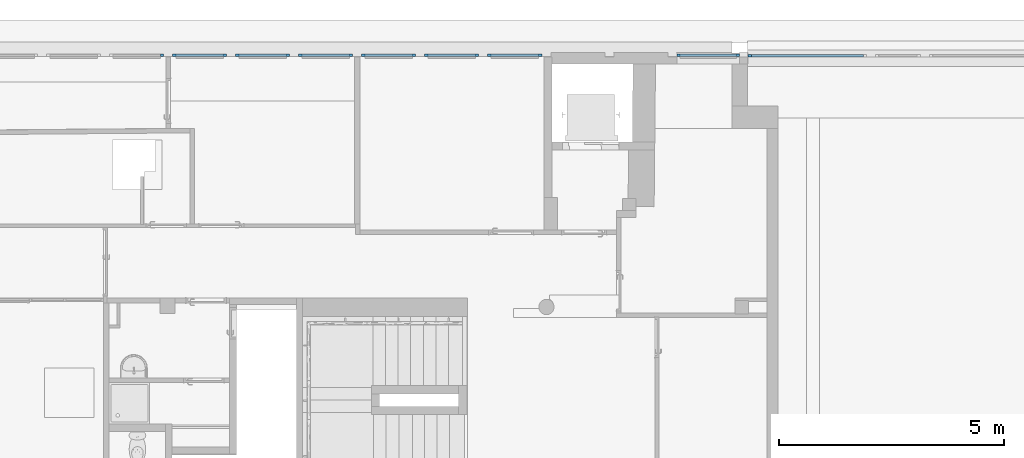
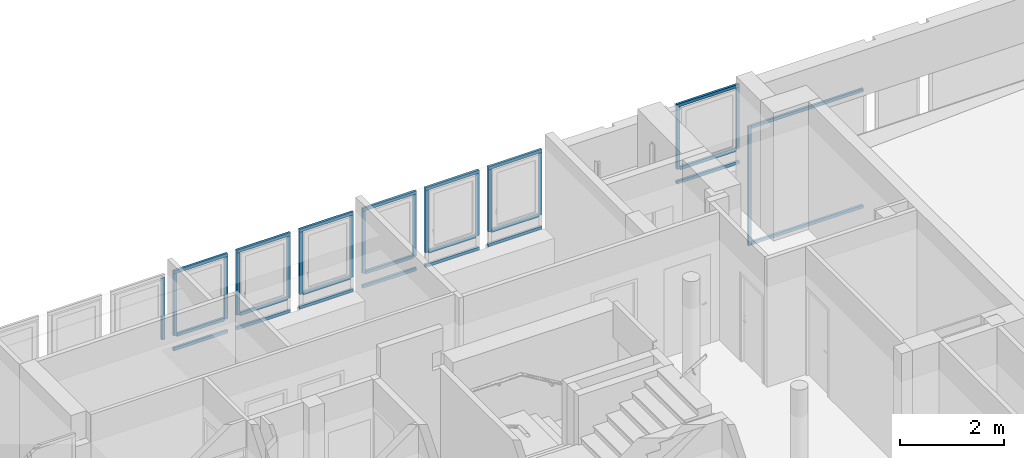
# One storey, part 12 of 97: 39 members, 9 elements without a shape of their own.
"""IFC4 building model written with IfcOpenShell, lengths in metres."""

from ifc_helpers import new_model, entity, si_unit, converted_unit, derived_unit, direction, frame, origin, place, context, subcontext, project, spatial, indexed_curve, outline, extrude, source, transform, mapped, material, type_object, type_shapes, element, aggregate, save


model = new_model("IFC4")

# Units and contexts
model_context = context("Model", 3, precision=1e-05, world=origin(), true_north=direction((6.12303176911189e-17, 1.0)))
body_context = subcontext(model_context, "Body", "Model", "MODEL_VIEW")
ifc_project = project(units=[si_unit("LENGTHUNIT", "METRE"), si_unit("AREAUNIT", "SQUARE_METRE"), si_unit("VOLUMEUNIT", "CUBIC_METRE"), converted_unit("PLANEANGLEUNIT", "DEGREE", entity("IfcRatioMeasure", 0.0174532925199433), si_unit("PLANEANGLEUNIT", "RADIAN"), dimensions=[0, 0, 0, 0, 0, 0, 0]), si_unit("MASSUNIT", "GRAM", prefix="KILO"), derived_unit("MASSDENSITYUNIT", [(si_unit("MASSUNIT", "GRAM", prefix="KILO"), 1), (si_unit("LENGTHUNIT", "METRE"), -3)]), derived_unit("MOMENTOFINERTIAUNIT", [(si_unit("LENGTHUNIT", "METRE"), 4)]), si_unit("TIMEUNIT", "SECOND"), si_unit("FREQUENCYUNIT", "HERTZ"), si_unit("THERMODYNAMICTEMPERATUREUNIT", "DEGREE_CELSIUS"), derived_unit("THERMALTRANSMITTANCEUNIT", [(si_unit("MASSUNIT", "GRAM", prefix="KILO"), 1), (si_unit("THERMODYNAMICTEMPERATUREUNIT", "KELVIN"), -1), (si_unit("TIMEUNIT", "SECOND"), -3)]), derived_unit("VOLUMETRICFLOWRATEUNIT", [(si_unit("LENGTHUNIT", "METRE"), 3), (si_unit("TIMEUNIT", "SECOND"), -1)]), si_unit("ELECTRICCURRENTUNIT", "AMPERE"), si_unit("ELECTRICVOLTAGEUNIT", "VOLT"), si_unit("POWERUNIT", "WATT"), si_unit("FORCEUNIT", "NEWTON", prefix="KILO"), si_unit("ILLUMINANCEUNIT", "LUX"), si_unit("LUMINOUSFLUXUNIT", "LUMEN"), si_unit("LUMINOUSINTENSITYUNIT", "CANDELA"), derived_unit("USERDEFINED", [(si_unit("MASSUNIT", "GRAM", prefix="KILO"), -1), (si_unit("LENGTHUNIT", "METRE"), -2), (si_unit("TIMEUNIT", "SECOND"), 3), (si_unit("LUMINOUSFLUXUNIT", "LUMEN"), 1)]), derived_unit("LINEARVELOCITYUNIT", [(si_unit("LENGTHUNIT", "METRE"), 1), (si_unit("TIMEUNIT", "SECOND"), -1)]), si_unit("PRESSUREUNIT", "PASCAL"), derived_unit("USERDEFINED", [(si_unit("LENGTHUNIT", "METRE"), -2), (si_unit("MASSUNIT", "GRAM", prefix="KILO"), 1), (si_unit("TIMEUNIT", "SECOND"), -2)]), derived_unit("LINEARFORCEUNIT", [(si_unit("MASSUNIT", "GRAM", prefix="KILO"), 1), (si_unit("LENGTHUNIT", "METRE"), 1), (si_unit("TIMEUNIT", "SECOND"), -2), (si_unit("LENGTHUNIT", "METRE"), -1)]), derived_unit("PLANARFORCEUNIT", [(si_unit("MASSUNIT", "GRAM", prefix="KILO"), 1), (si_unit("LENGTHUNIT", "METRE"), 1), (si_unit("TIMEUNIT", "SECOND"), -2), (si_unit("LENGTHUNIT", "METRE"), -2)])], contexts=[model_context])

# Site, building, storey
site_placement = place(None, origin())
site = spatial("IfcSite", under=ifc_project, at=site_placement, Name="Default", CompositionType="ELEMENT")
building_placement = place(site_placement, origin())
building = spatial("IfcBuilding", under=site, at=building_placement, Name="HOTEL CONSULAIRE BOULOGNE SUR MER", CompositionType="ELEMENT")
storey_placement = place(building_placement, frame((0.0, 0.0, 3.62152697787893)))
storey = spatial("IfcBuildingStorey", under=building, at=storey_placement, Name="Niveau 1", CompositionType="ELEMENT", Elevation=3.62152697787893)

# Curtain wall, member
curtain_wall_type = type_object("IfcCurtainWallType", Name="Mur-rideau:Simple panneau", PredefinedType="NOTDEFINED")
curtain_wall_1_placement = place(storey_placement, frame((0.0, 0.0, -3.62152697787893)))
curtain_wall_1 = element("IfcCurtainWall", 1, at=curtain_wall_1_placement, inside=storey, type_object=curtain_wall_type, Name="Mur-rideau:Simple panneau", ObjectType="Mur-rideau:Simple panneau", PredefinedType="NOTDEFINED")
ifc_material = material(Name="PVC - Blanc", Category="Plastique")
member_type_1 = type_object("IfcMemberType", Name="Meneau rectangulaire:50 x 35", PredefinedType="MULLION", material=ifc_material)
shared_shape_1 = source(origin(), body_context, "Body", "SweptSolid", [
    extrude(outline(indexed_curve([(-0.025, -0.035), (0.025, -0.035), (0.025, 0.035), (-0.025, 0.035), (-0.025, -0.035)], self_intersect=False)), frame((-0.035, -0.025, -1.20000000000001), z_axis=(0.0, 0.0, 1.0), x_axis=(0.0, -1.0, 0.0)), (0.0, 0.0, 1.0), 1.20000000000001),
])
type_shapes(member_type_1, [shared_shape_1])
member_1_placement = place(storey_placement, frame((1.47757836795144, -10.0746323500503, 2.67047302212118), z_axis=(1.0, 0.0, 0.0), x_axis=(0.0, 0.0, 1.0)))
member_1 = element("IfcMember", 2, at=member_1_placement, type_object=member_type_1, material=ifc_material, Name="Meneau rectangulaire:50 x 35", ObjectType="Meneau rectangulaire:50 x 35", PredefinedType="MULLION", context=body_context, shape_type="MappedRepresentation", body=[
    mapped(shared_shape_1, transform((0.0, 0.0, 0.0), scale=1.0)),
])

curtain_wall_2_placement = place(storey_placement, frame((0.0, 0.0, -3.62152697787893)))
curtain_wall_2 = element("IfcCurtainWall", 3, at=curtain_wall_2_placement, inside=storey, type_object=curtain_wall_type, Name="Mur-rideau:Simple panneau", ObjectType="Mur-rideau:Simple panneau", PredefinedType="NOTDEFINED")
member_2_placement = place(storey_placement, frame((2.87757836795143, -10.0746323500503, 2.67047302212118), z_axis=(1.0, 0.0, 0.0), x_axis=(0.0, 0.0, 1.0)))
member_2 = element("IfcMember", 4, at=member_2_placement, type_object=member_type_1, material=ifc_material, Name="Meneau rectangulaire:50 x 35", ObjectType="Meneau rectangulaire:50 x 35", PredefinedType="MULLION", context=body_context, shape_type="MappedRepresentation", body=[
    mapped(shared_shape_1, transform((0.0, 0.0, 0.0), scale=1.0)),
])

curtain_wall_3_placement = place(storey_placement, frame((0.0, 0.0, -3.62152697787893)))
curtain_wall_3 = element("IfcCurtainWall", 5, at=curtain_wall_3_placement, inside=storey, type_object=curtain_wall_type, Name="Mur-rideau:Simple panneau", ObjectType="Mur-rideau:Simple panneau", PredefinedType="NOTDEFINED")
member_3_placement = place(storey_placement, frame((4.27857836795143, -10.0746323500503, 2.67047302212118), z_axis=(1.0, 0.0, 0.0), x_axis=(0.0, 0.0, 1.0)))
member_3 = element("IfcMember", 6, at=member_3_placement, type_object=member_type_1, material=ifc_material, Name="Meneau rectangulaire:50 x 35", ObjectType="Meneau rectangulaire:50 x 35", PredefinedType="MULLION", context=body_context, shape_type="MappedRepresentation", body=[
    mapped(shared_shape_1, transform((0.0, 0.0, 0.0), scale=1.0)),
])

curtain_wall_4_placement = place(storey_placement, frame((0.0, 0.0, -3.62152697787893)))
curtain_wall_4 = element("IfcCurtainWall", 7, at=curtain_wall_4_placement, inside=storey, type_object=curtain_wall_type, Name="Mur-rideau:Simple panneau", ObjectType="Mur-rideau:Simple panneau", PredefinedType="NOTDEFINED")
member_4_placement = place(storey_placement, frame((5.67757836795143, -10.0746323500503, 2.67047302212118), z_axis=(1.0, 0.0, 0.0), x_axis=(0.0, 0.0, 1.0)))
member_4 = element("IfcMember", 8, at=member_4_placement, type_object=member_type_1, material=ifc_material, Name="Meneau rectangulaire:50 x 35", ObjectType="Meneau rectangulaire:50 x 35", PredefinedType="MULLION", context=body_context, shape_type="MappedRepresentation", body=[
    mapped(shared_shape_1, transform((0.0, 0.0, 0.0), scale=1.0)),
])

curtain_wall_5_placement = place(storey_placement, frame((0.0, 0.0, -3.62152697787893)))
curtain_wall_5 = element("IfcCurtainWall", 9, at=curtain_wall_5_placement, inside=storey, type_object=curtain_wall_type, Name="Mur-rideau:Simple panneau", ObjectType="Mur-rideau:Simple panneau", PredefinedType="NOTDEFINED")
member_5_placement = place(storey_placement, frame((7.07757836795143, -10.0746323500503, 2.67047302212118), z_axis=(1.0, 0.0, 0.0), x_axis=(0.0, 0.0, 1.0)))
member_5 = element("IfcMember", 10, at=member_5_placement, type_object=member_type_1, material=ifc_material, Name="Meneau rectangulaire:50 x 35", ObjectType="Meneau rectangulaire:50 x 35", PredefinedType="MULLION", context=body_context, shape_type="MappedRepresentation", body=[
    mapped(shared_shape_1, transform((0.0, 0.0, 0.0), scale=1.0)),
])

# Member
member_type_2 = type_object("IfcMemberType", Name="Meneau rectangulaire:50 x 35", PredefinedType="MULLION", material=ifc_material)
shared_shape_2 = source(origin(), body_context, "Body", "SweptSolid", [
    extrude(outline(indexed_curve([(-0.025, -0.035), (0.025, -0.035), (0.025, 0.035), (-0.025, 0.035), (-0.025, -0.035)], self_intersect=False)), frame((-0.035, -0.025, -1.20000000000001), z_axis=(0.0, 0.0, 1.0), x_axis=(0.0, -1.0, 0.0)), (0.0, 0.0, 1.0), 1.20000000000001),
])
type_shapes(member_type_2, [shared_shape_2])
member_6_placement = place(storey_placement, frame((0.277578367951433, -10.0746323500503, 0.791612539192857), z_axis=(-1.0, 0.0, 0.0), x_axis=(0.0, 0.0, -1.0)))
member_6 = element("IfcMember", 11, at=member_6_placement, type_object=member_type_2, material=ifc_material, Name="Meneau rectangulaire:50 x 35", ObjectType="Meneau rectangulaire:50 x 35", PredefinedType="MULLION", context=body_context, shape_type="MappedRepresentation", body=[
    mapped(shared_shape_2, transform((0.0, 0.0, 0.0), scale=1.0)),
])

member_7_placement = place(storey_placement, frame((1.67757836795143, -10.0746323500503, 0.791612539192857), z_axis=(-1.0, 0.0, 0.0), x_axis=(0.0, 0.0, -1.0)))
member_7 = element("IfcMember", 12, at=member_7_placement, type_object=member_type_2, material=ifc_material, Name="Meneau rectangulaire:50 x 35", ObjectType="Meneau rectangulaire:50 x 35", PredefinedType="MULLION", context=body_context, shape_type="MappedRepresentation", body=[
    mapped(shared_shape_2, transform((0.0, 0.0, 0.0), scale=1.0)),
])

member_8_placement = place(storey_placement, frame((3.07857836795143, -10.0746323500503, 0.791612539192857), z_axis=(-1.0, 0.0, 0.0), x_axis=(0.0, 0.0, -1.0)))
member_8 = element("IfcMember", 13, at=member_8_placement, type_object=member_type_2, material=ifc_material, Name="Meneau rectangulaire:50 x 35", ObjectType="Meneau rectangulaire:50 x 35", PredefinedType="MULLION", context=body_context, shape_type="MappedRepresentation", body=[
    mapped(shared_shape_2, transform((0.0, 0.0, 0.0), scale=1.0)),
])

member_9_placement = place(storey_placement, frame((4.47757836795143, -10.0746323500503, 0.791612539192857), z_axis=(-1.0, 0.0, 0.0), x_axis=(0.0, 0.0, -1.0)))
member_9 = element("IfcMember", 14, at=member_9_placement, type_object=member_type_2, material=ifc_material, Name="Meneau rectangulaire:50 x 35", ObjectType="Meneau rectangulaire:50 x 35", PredefinedType="MULLION", context=body_context, shape_type="MappedRepresentation", body=[
    mapped(shared_shape_2, transform((0.0, 0.0, 0.0), scale=1.0)),
])

member_10_placement = place(storey_placement, frame((5.87757836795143, -10.0746323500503, 0.791612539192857), z_axis=(-1.0, 0.0, 0.0), x_axis=(0.0, 0.0, -1.0)))
member_10 = element("IfcMember", 15, at=member_10_placement, type_object=member_type_2, material=ifc_material, Name="Meneau rectangulaire:50 x 35", ObjectType="Meneau rectangulaire:50 x 35", PredefinedType="MULLION", context=body_context, shape_type="MappedRepresentation", body=[
    mapped(shared_shape_2, transform((0.0, 0.0, 0.0), scale=1.0)),
])

member_type_3 = type_object("IfcMemberType", Name="Meneau rectangulaire:50 x 35", PredefinedType="MULLION", material=ifc_material)
shared_shape_3 = source(origin(), body_context, "Body", "SweptSolid", [
    extrude(outline(indexed_curve([(-0.025, -0.035), (0.025, -0.035), (0.025, 0.035), (-0.025, 0.035), (-0.025, -0.035)], self_intersect=False)), frame((0.0, -0.025, -1.06000000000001), z_axis=(0.0, 0.0, 1.0), x_axis=(0.0, -1.0, 0.0)), (0.0, 0.0, 1.0), 1.06000000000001),
])
type_shapes(member_type_3, [shared_shape_3])
member_11_placement = place(storey_placement, frame((1.40757836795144, -10.0746323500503, 1.13961253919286), z_axis=(1.0, 0.0, 0.0), x_axis=(0.0, 0.0, 1.0)))
member_11 = element("IfcMember", 16, at=member_11_placement, type_object=member_type_3, material=ifc_material, Name="Meneau rectangulaire:50 x 35", ObjectType="Meneau rectangulaire:50 x 35", PredefinedType="MULLION", context=body_context, shape_type="MappedRepresentation", body=[
    mapped(shared_shape_3, transform((0.0, 0.0, 0.0), scale=1.0)),
])

member_12_placement = place(storey_placement, frame((2.80757836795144, -10.0746323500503, 1.13961253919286), z_axis=(1.0, 0.0, 0.0), x_axis=(0.0, 0.0, 1.0)))
member_12 = element("IfcMember", 17, at=member_12_placement, type_object=member_type_3, material=ifc_material, Name="Meneau rectangulaire:50 x 35", ObjectType="Meneau rectangulaire:50 x 35", PredefinedType="MULLION", context=body_context, shape_type="MappedRepresentation", body=[
    mapped(shared_shape_3, transform((0.0, 0.0, 0.0), scale=1.0)),
])

member_13_placement = place(storey_placement, frame((4.20857836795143, -10.0746323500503, 1.13961253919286), z_axis=(1.0, 0.0, 0.0), x_axis=(0.0, 0.0, 1.0)))
member_13 = element("IfcMember", 18, at=member_13_placement, type_object=member_type_3, material=ifc_material, Name="Meneau rectangulaire:50 x 35", ObjectType="Meneau rectangulaire:50 x 35", PredefinedType="MULLION", context=body_context, shape_type="MappedRepresentation", body=[
    mapped(shared_shape_3, transform((0.0, 0.0, 0.0), scale=1.0)),
])

member_14_placement = place(storey_placement, frame((5.60757836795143, -10.0746323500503, 1.13961253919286), z_axis=(1.0, 0.0, 0.0), x_axis=(0.0, 0.0, 1.0)))
member_14 = element("IfcMember", 19, at=member_14_placement, type_object=member_type_3, material=ifc_material, Name="Meneau rectangulaire:50 x 35", ObjectType="Meneau rectangulaire:50 x 35", PredefinedType="MULLION", context=body_context, shape_type="MappedRepresentation", body=[
    mapped(shared_shape_3, transform((0.0, 0.0, 0.0), scale=1.0)),
])

member_15_placement = place(storey_placement, frame((7.00757836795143, -10.0746323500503, 1.13961253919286), z_axis=(1.0, 0.0, 0.0), x_axis=(0.0, 0.0, 1.0)))
member_15 = element("IfcMember", 20, at=member_15_placement, type_object=member_type_3, material=ifc_material, Name="Meneau rectangulaire:50 x 35", ObjectType="Meneau rectangulaire:50 x 35", PredefinedType="MULLION", context=body_context, shape_type="MappedRepresentation", body=[
    mapped(shared_shape_3, transform((0.0, 0.0, 0.0), scale=1.0)),
])

# Curtain wall, member
curtain_wall_6_placement = place(storey_placement, frame((0.0, 0.0, -3.62152697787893)))
curtain_wall_6 = element("IfcCurtainWall", 21, at=curtain_wall_6_placement, inside=storey, type_object=curtain_wall_type, Name="Mur-rideau:Simple panneau", ObjectType="Mur-rideau:Simple panneau", PredefinedType="NOTDEFINED")
member_type_4 = type_object("IfcMemberType", Name="Meneau rectangulaire:50 x 35", PredefinedType="MULLION", material=ifc_material)
shared_shape_4 = source(origin(), body_context, "Body", "SweptSolid", [
    extrude(outline(indexed_curve([(-0.025, -0.035), (0.025, -0.035), (0.025, 0.035), (-0.025, 0.035), (-0.025, -0.035)], self_intersect=False)), frame((-0.035, -0.025, -1.46086048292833), z_axis=(0.0, 0.0, 1.0), x_axis=(0.0, -1.0, 0.0)), (0.0, 0.0, 1.0), 1.46086048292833),
])
type_shapes(member_type_4, [shared_shape_4])
member_16_placement = place(storey_placement, frame((-1.31977317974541, -10.0746323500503, 1.13961253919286), z_axis=(0.0, 0.0, -1.0), x_axis=(1.0, 0.0, 0.0)))
member_16 = element("IfcMember", 22, at=member_16_placement, type_object=member_type_4, material=ifc_material, Name="Meneau rectangulaire:50 x 35", ObjectType="Meneau rectangulaire:50 x 35", PredefinedType="MULLION", context=body_context, shape_type="MappedRepresentation", body=[
    mapped(shared_shape_4, transform((0.0, 0.0, 0.0), scale=1.0)),
])
aggregate(curtain_wall_6, [member_16])

curtain_wall_7_placement = place(storey_placement, frame((0.0, 0.0, -3.62152697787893)))
curtain_wall_7 = element("IfcCurtainWall", 23, at=curtain_wall_7_placement, inside=storey, type_object=curtain_wall_type, Name="Mur-rideau:Simple panneau", ObjectType="Mur-rideau:Simple panneau", PredefinedType="NOTDEFINED")
member_17_placement = place(storey_placement, frame((0.0775783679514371, -10.0746323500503, 1.13961253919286), z_axis=(0.0, 0.0, -1.0), x_axis=(1.0, 0.0, 0.0)))
member_17 = element("IfcMember", 24, at=member_17_placement, type_object=member_type_4, material=ifc_material, Name="Meneau rectangulaire:50 x 35", ObjectType="Meneau rectangulaire:50 x 35", PredefinedType="MULLION", context=body_context, shape_type="MappedRepresentation", body=[
    mapped(shared_shape_4, transform((0.0, 0.0, 0.0), scale=1.0)),
])

# Member
member_18_placement = place(storey_placement, frame((1.47757836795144, -10.0746323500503, 1.13961253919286), z_axis=(0.0, 0.0, -1.0), x_axis=(1.0, 0.0, 0.0)))
member_18 = element("IfcMember", 25, at=member_18_placement, type_object=member_type_4, material=ifc_material, Name="Meneau rectangulaire:50 x 35", ObjectType="Meneau rectangulaire:50 x 35", PredefinedType="MULLION", context=body_context, shape_type="MappedRepresentation", body=[
    mapped(shared_shape_4, transform((0.0, 0.0, 0.0), scale=1.0)),
])

member_19_placement = place(storey_placement, frame((2.87757836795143, -10.0746323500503, 1.13961253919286), z_axis=(0.0, 0.0, -1.0), x_axis=(1.0, 0.0, 0.0)))
member_19 = element("IfcMember", 26, at=member_19_placement, type_object=member_type_4, material=ifc_material, Name="Meneau rectangulaire:50 x 35", ObjectType="Meneau rectangulaire:50 x 35", PredefinedType="MULLION", context=body_context, shape_type="MappedRepresentation", body=[
    mapped(shared_shape_4, transform((0.0, 0.0, 0.0), scale=1.0)),
])

member_20_placement = place(storey_placement, frame((4.27857836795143, -10.0746323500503, 1.13961253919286), z_axis=(0.0, 0.0, -1.0), x_axis=(1.0, 0.0, 0.0)))
member_20 = element("IfcMember", 27, at=member_20_placement, type_object=member_type_4, material=ifc_material, Name="Meneau rectangulaire:50 x 35", ObjectType="Meneau rectangulaire:50 x 35", PredefinedType="MULLION", context=body_context, shape_type="MappedRepresentation", body=[
    mapped(shared_shape_4, transform((0.0, 0.0, 0.0), scale=1.0)),
])

member_21_placement = place(storey_placement, frame((5.67757836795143, -10.0746323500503, 1.13961253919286), z_axis=(0.0, 0.0, -1.0), x_axis=(1.0, 0.0, 0.0)))
member_21 = element("IfcMember", 28, at=member_21_placement, type_object=member_type_4, material=ifc_material, Name="Meneau rectangulaire:50 x 35", ObjectType="Meneau rectangulaire:50 x 35", PredefinedType="MULLION", context=body_context, shape_type="MappedRepresentation", body=[
    mapped(shared_shape_4, transform((0.0, 0.0, 0.0), scale=1.0)),
])

member_22_placement = place(storey_placement, frame((7.07757836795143, -10.0746323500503, 1.13961253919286), z_axis=(0.0, 0.0, -1.0), x_axis=(1.0, 0.0, 0.0)))
member_22 = element("IfcMember", 29, at=member_22_placement, type_object=member_type_4, material=ifc_material, Name="Meneau rectangulaire:50 x 35", ObjectType="Meneau rectangulaire:50 x 35", PredefinedType="MULLION", context=body_context, shape_type="MappedRepresentation", body=[
    mapped(shared_shape_4, transform((0.0, 0.0, 0.0), scale=1.0)),
])

# Curtain wall, member
curtain_wall_8_placement = place(storey_placement, frame((0.0, 0.0, -3.62152697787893)))
curtain_wall_8 = element("IfcCurtainWall", 30, at=curtain_wall_8_placement, inside=storey, type_object=curtain_wall_type, Name="Mur-rideau:Simple panneau", ObjectType="Mur-rideau:Simple panneau", PredefinedType="NOTDEFINED")
member_23_placement = place(storey_placement, frame((11.4734778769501, -10.0746323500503, 1.13961253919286), z_axis=(0.0, 0.0, -1.0), x_axis=(1.0, 0.0, 0.0)))
member_23 = element("IfcMember", 31, at=member_23_placement, type_object=member_type_4, material=ifc_material, Name="Meneau rectangulaire:50 x 35", ObjectType="Meneau rectangulaire:50 x 35", PredefinedType="MULLION", context=body_context, shape_type="MappedRepresentation", body=[
    mapped(shared_shape_4, transform((0.0, 0.0, 0.0), scale=1.0)),
])

# Member
member_type_5 = type_object("IfcMemberType", Name="Meneau rectangulaire:50 x 35", PredefinedType="MULLION", material=ifc_material)
shared_shape_5 = source(origin(), body_context, "Body", "SweptSolid", [
    extrude(outline(indexed_curve([(-0.025, -0.035), (0.025, -0.035), (0.025, 0.035), (-0.025, 0.035), (-0.025, -0.035)], self_intersect=False)), frame((-0.035, -0.025, -1.46086048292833), z_axis=(0.0, 0.0, 1.0), x_axis=(0.0, -1.0, 0.0)), (0.0, 0.0, 1.0), 1.46086048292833),
])
type_shapes(member_type_5, [shared_shape_5])
member_24_placement = place(storey_placement, frame((-1.11977317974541, -10.0746323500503, 2.60047302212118), z_axis=(0.0, 0.0, 1.0), x_axis=(-1.0, 0.0, 0.0)))
member_24 = element("IfcMember", 32, at=member_24_placement, type_object=member_type_5, material=ifc_material, Name="Meneau rectangulaire:50 x 35", ObjectType="Meneau rectangulaire:50 x 35", PredefinedType="MULLION", context=body_context, shape_type="MappedRepresentation", body=[
    mapped(shared_shape_5, transform((0.0, 0.0, 0.0), scale=1.0)),
])

member_25_placement = place(storey_placement, frame((0.277578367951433, -10.0746323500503, 2.60047302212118), z_axis=(0.0, 0.0, 1.0), x_axis=(-1.0, 0.0, 0.0)))
member_25 = element("IfcMember", 33, at=member_25_placement, type_object=member_type_5, material=ifc_material, Name="Meneau rectangulaire:50 x 35", ObjectType="Meneau rectangulaire:50 x 35", PredefinedType="MULLION", context=body_context, shape_type="MappedRepresentation", body=[
    mapped(shared_shape_5, transform((0.0, 0.0, 0.0), scale=1.0)),
])

aggregate(curtain_wall_1, [member_11, member_25, member_1, member_6, member_18])

member_26_placement = place(storey_placement, frame((1.67757836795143, -10.0746323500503, 2.60047302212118), z_axis=(0.0, 0.0, 1.0), x_axis=(-1.0, 0.0, 0.0)))
member_26 = element("IfcMember", 34, at=member_26_placement, type_object=member_type_5, material=ifc_material, Name="Meneau rectangulaire:50 x 35", ObjectType="Meneau rectangulaire:50 x 35", PredefinedType="MULLION", context=body_context, shape_type="MappedRepresentation", body=[
    mapped(shared_shape_5, transform((0.0, 0.0, 0.0), scale=1.0)),
])

aggregate(curtain_wall_2, [member_12, member_26, member_2, member_7, member_19])

member_27_placement = place(storey_placement, frame((3.07857836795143, -10.0746323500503, 2.60047302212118), z_axis=(0.0, 0.0, 1.0), x_axis=(-1.0, 0.0, 0.0)))
member_27 = element("IfcMember", 35, at=member_27_placement, type_object=member_type_5, material=ifc_material, Name="Meneau rectangulaire:50 x 35", ObjectType="Meneau rectangulaire:50 x 35", PredefinedType="MULLION", context=body_context, shape_type="MappedRepresentation", body=[
    mapped(shared_shape_5, transform((0.0, 0.0, 0.0), scale=1.0)),
])

aggregate(curtain_wall_3, [member_13, member_27, member_3, member_8, member_20])

member_28_placement = place(storey_placement, frame((4.47757836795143, -10.0746323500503, 2.60047302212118), z_axis=(0.0, 0.0, 1.0), x_axis=(-1.0, 0.0, 0.0)))
member_28 = element("IfcMember", 36, at=member_28_placement, type_object=member_type_5, material=ifc_material, Name="Meneau rectangulaire:50 x 35", ObjectType="Meneau rectangulaire:50 x 35", PredefinedType="MULLION", context=body_context, shape_type="MappedRepresentation", body=[
    mapped(shared_shape_5, transform((0.0, 0.0, 0.0), scale=1.0)),
])

aggregate(curtain_wall_4, [member_14, member_28, member_4, member_9, member_21])

member_29_placement = place(storey_placement, frame((5.87757836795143, -10.0746323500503, 2.60047302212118), z_axis=(0.0, 0.0, 1.0), x_axis=(-1.0, 0.0, 0.0)))
member_29 = element("IfcMember", 37, at=member_29_placement, type_object=member_type_5, material=ifc_material, Name="Meneau rectangulaire:50 x 35", ObjectType="Meneau rectangulaire:50 x 35", PredefinedType="MULLION", context=body_context, shape_type="MappedRepresentation", body=[
    mapped(shared_shape_5, transform((0.0, 0.0, 0.0), scale=1.0)),
])

aggregate(curtain_wall_5, [member_15, member_29, member_5, member_10, member_22])

member_30_placement = place(storey_placement, frame((10.0775783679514, -10.0746323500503, 2.60047302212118), z_axis=(0.0, 0.0, 1.0), x_axis=(-1.0, 0.0, 0.0)))
member_30 = element("IfcMember", 38, at=member_30_placement, type_object=member_type_5, material=ifc_material, Name="Meneau rectangulaire:50 x 35", ObjectType="Meneau rectangulaire:50 x 35", PredefinedType="MULLION", context=body_context, shape_type="MappedRepresentation", body=[
    mapped(shared_shape_5, transform((0.0, 0.0, 0.0), scale=1.0)),
])

member_type_6 = type_object("IfcMemberType", Name="Meneau rectangulaire:50 x 35", PredefinedType="MULLION", material=ifc_material)
shared_shape_6 = source(origin(), body_context, "Body", "SweptSolid", [
    extrude(outline(indexed_curve([(-0.025, -0.035), (0.025, -0.035), (0.025, 0.035), (-0.025, 0.035), (-0.025, -0.035)], self_intersect=False)), frame((0.0, -0.025, -1.05735154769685), z_axis=(0.0, 0.0, 1.0), x_axis=(0.0, -1.0, 0.0)), (0.0, 0.0, 1.0), 1.05735154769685),
])
type_shapes(member_type_6, [shared_shape_6])
member_31_placement = place(storey_placement, frame((0.0075783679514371, -10.0746323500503, 1.13961253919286), z_axis=(1.0, 0.0, 0.0), x_axis=(0.0, 0.0, 1.0)))
member_31 = element("IfcMember", 39, at=member_31_placement, type_object=member_type_6, material=ifc_material, Name="Meneau rectangulaire:50 x 35", ObjectType="Meneau rectangulaire:50 x 35", PredefinedType="MULLION", context=body_context, shape_type="MappedRepresentation", body=[
    mapped(shared_shape_6, transform((0.0, 0.0, 0.0), scale=1.0)),
])

member_type_7 = type_object("IfcMemberType", Name="Meneau rectangulaire:50 x 35", PredefinedType="MULLION", material=ifc_material)
shared_shape_7 = source(origin(), body_context, "Body", "SweptSolid", [
    extrude(outline(indexed_curve([(-0.025, -0.035), (0.025, -0.035), (0.025, 0.035), (-0.025, 0.035), (-0.025, -0.035)], self_intersect=False)), frame((-0.035, -0.025, -1.19735154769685), z_axis=(0.0, 0.0, 1.0), x_axis=(0.0, -1.0, 0.0)), (0.0, 0.0, 1.0), 1.19735154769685),
])
type_shapes(member_type_7, [shared_shape_7])
member_32_placement = place(storey_placement, frame((0.0775783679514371, -10.0746323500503, 2.67047302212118), z_axis=(1.0, 0.0, 0.0), x_axis=(0.0, 0.0, 1.0)))
member_32 = element("IfcMember", 40, at=member_32_placement, type_object=member_type_7, material=ifc_material, Name="Meneau rectangulaire:50 x 35", ObjectType="Meneau rectangulaire:50 x 35", PredefinedType="MULLION", context=body_context, shape_type="MappedRepresentation", body=[
    mapped(shared_shape_7, transform((0.0, 0.0, 0.0), scale=1.0)),
])

member_type_8 = type_object("IfcMemberType", Name="Meneau rectangulaire:50 x 35", PredefinedType="MULLION", material=ifc_material)
shared_shape_8 = source(origin(), body_context, "Body", "SweptSolid", [
    extrude(outline(indexed_curve([(-0.025, -0.035), (0.025, -0.035), (0.025, 0.035), (-0.025, 0.035), (-0.025, -0.035)], self_intersect=False)), frame((-0.035, -0.025, -1.19735154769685), z_axis=(0.0, 0.0, 1.0), x_axis=(0.0, -1.0, 0.0)), (0.0, 0.0, 1.0), 1.19735154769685),
])
type_shapes(member_type_8, [shared_shape_8])
member_33_placement = place(storey_placement, frame((-1.11977317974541, -10.0746323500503, 0.791612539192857), z_axis=(-1.0, 0.0, 0.0), x_axis=(0.0, 0.0, -1.0)))
member_33 = element("IfcMember", 41, at=member_33_placement, type_object=member_type_8, material=ifc_material, Name="Meneau rectangulaire:50 x 35", ObjectType="Meneau rectangulaire:50 x 35", PredefinedType="MULLION", context=body_context, shape_type="MappedRepresentation", body=[
    mapped(shared_shape_8, transform((0.0, 0.0, 0.0), scale=1.0)),
])

aggregate(curtain_wall_7, [member_31, member_24, member_32, member_33, member_17])

member_type_9 = type_object("IfcMemberType", Name="Meneau rectangulaire:50 x 35", PredefinedType="MULLION", material=ifc_material)
shared_shape_9 = source(origin(), body_context, "Body", "SweptSolid", [
    extrude(outline(indexed_curve([(-0.025, -0.035), (0.025, -0.035), (0.025, 0.035), (-0.025, 0.035), (-0.025, -0.035)], self_intersect=False)), frame((0.0, -0.025, -1.25589950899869), z_axis=(0.0, 0.0, 1.0), x_axis=(0.0, -1.0, 0.0)), (0.0, 0.0, 1.0), 1.25589950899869),
])
type_shapes(member_type_9, [shared_shape_9])
member_34_placement = place(storey_placement, frame((11.4034778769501, -10.0746323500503, 1.13961253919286), z_axis=(1.0, 0.0, 0.0), x_axis=(0.0, 0.0, 1.0)))
member_34 = element("IfcMember", 42, at=member_34_placement, type_object=member_type_9, material=ifc_material, Name="Meneau rectangulaire:50 x 35", ObjectType="Meneau rectangulaire:50 x 35", PredefinedType="MULLION", context=body_context, shape_type="MappedRepresentation", body=[
    mapped(shared_shape_9, transform((0.0, 0.0, 0.0), scale=1.0)),
])

member_type_10 = type_object("IfcMemberType", Name="Meneau rectangulaire:50 x 35", PredefinedType="MULLION", material=ifc_material)
shared_shape_10 = source(origin(), body_context, "Body", "SweptSolid", [
    extrude(outline(indexed_curve([(-0.025, -0.035), (0.025, -0.035), (0.025, 0.035), (-0.025, 0.035), (-0.025, -0.035)], self_intersect=False)), frame((-0.035, -0.025, -1.39589950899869), z_axis=(0.0, 0.0, 1.0), x_axis=(0.0, -1.0, 0.0)), (0.0, 0.0, 1.0), 1.39589950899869),
])
type_shapes(member_type_10, [shared_shape_10])
member_35_placement = place(storey_placement, frame((11.4734778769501, -10.0746323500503, 2.67047302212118), z_axis=(1.0, 0.0, 0.0), x_axis=(0.0, 0.0, 1.0)))
member_35 = element("IfcMember", 43, at=member_35_placement, type_object=member_type_10, material=ifc_material, Name="Meneau rectangulaire:50 x 35", ObjectType="Meneau rectangulaire:50 x 35", PredefinedType="MULLION", context=body_context, shape_type="MappedRepresentation", body=[
    mapped(shared_shape_10, transform((0.0, 0.0, 0.0), scale=1.0)),
])

member_type_11 = type_object("IfcMemberType", Name="Meneau rectangulaire:50 x 35", PredefinedType="MULLION", material=ifc_material)
shared_shape_11 = source(origin(), body_context, "Body", "SweptSolid", [
    extrude(outline(indexed_curve([(-0.025, -0.035), (0.025, -0.035), (0.025, 0.035), (-0.025, 0.035), (-0.025, -0.035)], self_intersect=False)), frame((-0.035, -0.025, -1.39589950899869), z_axis=(0.0, 0.0, 1.0), x_axis=(0.0, -1.0, 0.0)), (0.0, 0.0, 1.0), 1.39589950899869),
])
type_shapes(member_type_11, [shared_shape_11])
member_36_placement = place(storey_placement, frame((10.0775783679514, -10.0746323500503, 0.791612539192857), z_axis=(-1.0, 0.0, 0.0), x_axis=(0.0, 0.0, -1.0)))
member_36 = element("IfcMember", 44, at=member_36_placement, type_object=member_type_11, material=ifc_material, Name="Meneau rectangulaire:50 x 35", ObjectType="Meneau rectangulaire:50 x 35", PredefinedType="MULLION", context=body_context, shape_type="MappedRepresentation", body=[
    mapped(shared_shape_11, transform((0.0, 0.0, 0.0), scale=1.0)),
])

aggregate(curtain_wall_8, [member_34, member_30, member_35, member_36, member_23])

# Curtain wall, members
curtain_wall_9_placement = place(storey_placement, frame((0.0, 0.0, -3.62152697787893)))
curtain_wall_9 = element("IfcCurtainWall", 45, at=curtain_wall_9_placement, inside=storey, type_object=curtain_wall_type, Name="Mur-rideau:Simple panneau", ObjectType="Mur-rideau:Simple panneau", PredefinedType="NOTDEFINED")
member_type_12 = type_object("IfcMemberType", Name="Meneau rectangulaire:50 x 35", PredefinedType="MULLION", material=ifc_material)
shared_shape_12 = source(origin(), body_context, "Body", "SweptSolid", [
    extrude(outline(indexed_curve([(-0.025, -0.035), (0.025, -0.035), (0.025, 0.035), (-0.025, 0.035), (-0.025, -0.035)], self_intersect=False)), frame((-0.035, -0.025, -2.80936343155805), z_axis=(0.0, 0.0, 1.0), x_axis=(0.0, -1.0, 0.0)), (0.0, 0.0, 1.0), 2.80936343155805),
])
type_shapes(member_type_12, [shared_shape_12])
member_37_placement = place(storey_placement, frame((11.6611975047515, -10.0330173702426, -1.21), z_axis=(0.0, 0.0, -1.0), x_axis=(-1.0, 0.0, 0.0)))
member_37 = element("IfcMember", 46, at=member_37_placement, type_object=member_type_12, material=ifc_material, Name="Meneau rectangulaire:50 x 35", ObjectType="Meneau rectangulaire:50 x 35", PredefinedType="MULLION", context=body_context, shape_type="MappedRepresentation", body=[
    mapped(shared_shape_12, transform((0.0, 0.0, 0.0), scale=1.0)),
])
member_type_13 = type_object("IfcMemberType", Name="Meneau rectangulaire:50 x 35", PredefinedType="MULLION", material=ifc_material)
shared_shape_13 = source(origin(), body_context, "Body", "SweptSolid", [
    extrude(outline(indexed_curve([(-0.025, -0.035), (0.025, -0.035), (0.025, 0.035), (-0.025, 0.035), (-0.025, -0.035)], self_intersect=False)), frame((-0.035, -0.025, -2.49183915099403), z_axis=(0.0, 0.0, 1.0), x_axis=(0.0, -1.0, 0.0)), (0.0, 0.0, 1.0), 2.49183915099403),
])
type_shapes(member_type_13, [shared_shape_13])
member_38_placement = place(storey_placement, frame((11.7311975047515, -10.0330173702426, 1.59936343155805), z_axis=(-1.0, 0.0, 0.0), x_axis=(0.0, 0.0, 1.0)))
member_38 = element("IfcMember", 47, at=member_38_placement, type_object=member_type_13, material=ifc_material, Name="Meneau rectangulaire:50 x 35", ObjectType="Meneau rectangulaire:50 x 35", PredefinedType="MULLION", context=body_context, shape_type="MappedRepresentation", body=[
    mapped(shared_shape_13, transform((0.0, 0.0, 0.0), scale=1.0)),
])
member_type_14 = type_object("IfcMemberType", Name="Meneau rectangulaire:50 x 35", PredefinedType="MULLION", material=ifc_material)
shared_shape_14 = source(origin(), body_context, "Body", "SweptSolid", [
    extrude(outline(indexed_curve([(-0.025, -0.035), (0.025, -0.035), (0.025, 0.035), (-0.025, 0.035), (-0.025, -0.035)], self_intersect=False)), frame((-0.035, -0.025, -2.49183915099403), z_axis=(0.0, 0.0, 1.0), x_axis=(0.0, -1.0, 0.0)), (0.0, 0.0, 1.0), 2.49183915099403),
])
type_shapes(member_type_14, [shared_shape_14])
member_39_placement = place(storey_placement, frame((14.2230366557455, -10.0330173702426, -1.21), z_axis=(1.0, 0.0, 0.0), x_axis=(0.0, 0.0, -1.0)))
member_39 = element("IfcMember", 48, at=member_39_placement, type_object=member_type_14, material=ifc_material, Name="Meneau rectangulaire:50 x 35", ObjectType="Meneau rectangulaire:50 x 35", PredefinedType="MULLION", context=body_context, shape_type="MappedRepresentation", body=[
    mapped(shared_shape_14, transform((0.0, 0.0, 0.0), scale=1.0)),
])
aggregate(curtain_wall_9, [member_38, member_37, member_39])

save(model, "model.ifc")
